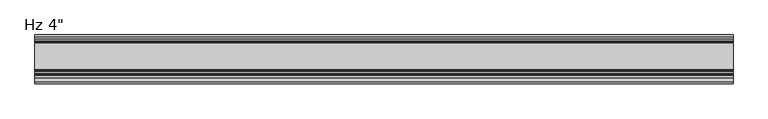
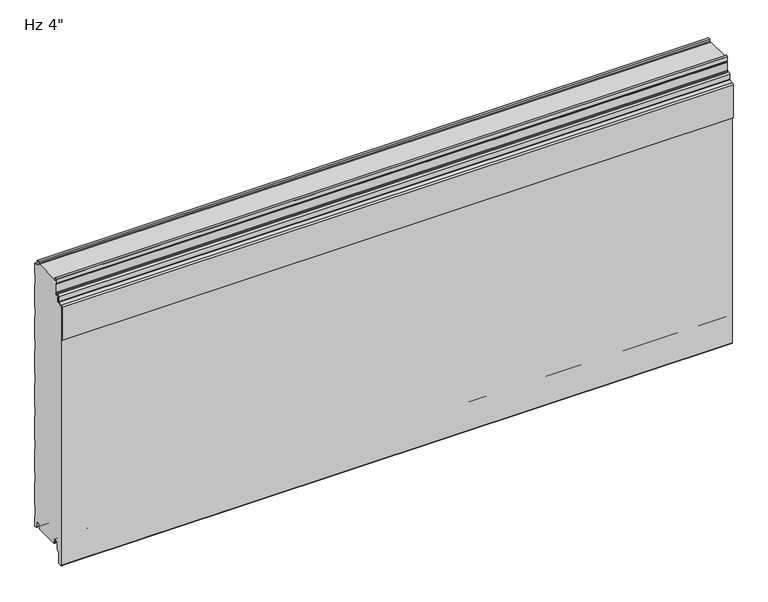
"""IFC4 building model written with IfcOpenShell, lengths in millimetres: plate geometry."""

from ifc_helpers import new_model, si_unit, frame, origin, place, context, project, spatial, polyline, circle_curve, source, transform, mapped, element, save
from ifc_brep_helpers import plane_surface, cylinder_surface, revolved_surface, advanced_brep


def plate_89cbda9c(model_context):
    return source(origin(), model_context, "Body", "AdvancedBrep", [
        advanced_brep(
        [(730.0, -80.5008679, 583.4464086), (730.0, -80.5008679, 602.1916086), (730.0, -82.0248679, 602.1916086), (730.0, -82.0248679, 583.4464086), (730.0, -83.5488679, 581.9224086), (730.0, -86.6476679, 581.9224086), (730.0, -90.1020679, 578.4680086), (730.0, -90.1020679, 567.2554512), (730.0, -90.7976552, 566.4963509), (730.0, -100.3416507, 565.3015233), (730.0, -103.124, 562.2651218), (730.0, -103.1360323, 486.6978086), (730.0, -101.6, 486.6978086), (730.0, -101.6, 562.2651218), (730.0, -100.2088254, 563.7833225), (730.0, -90.6648299, 564.9781501), (730.0, -88.5780679, 567.2554512), (730.0, -88.5780679, 578.4680086), (730.0, -86.6476679, 580.3984086), (730.0, -83.5488679, 580.3984086), (-730.0, -80.5008679, 583.4464086), (-730.0, -83.5488679, 580.3984086), (-730.0, -86.6476679, 580.3984086), (-730.0, -88.5780679, 578.4680086), (-730.0, -88.5780679, 567.2554512), (-730.0, -90.6648299, 564.9781501), (-730.0, -100.2088254, 563.7833225), (-730.0, -101.6, 562.2651218), (-730.0, -101.6, 486.6978086), (-730.0, -103.1360323, 486.6978086), (-730.0, -103.1360323, 562.2651218), (-730.0, -100.3416507, 565.3015233), (-730.0, -90.7976552, 566.4963509), (-730.0, -90.1020679, 567.2554512), (-730.0, -90.1020679, 578.4680086), (-730.0, -86.6476679, 581.9224086), (-730.0, -83.5488679, 581.9224086), (-730.0, -82.0248679, 583.4464086), (-730.0, -82.0248679, 602.1916086), (-730.0, -80.5008679, 602.1916086)],
        [
            (0, 1),
            (1, 2),
            (2, 3),
            (3, 4, circle_curve(frame((730.0, -83.5488679, 583.4464086), z_axis=(-1.0, 0.0, 0.0), x_axis=(0.0, 1.0, 0.0)), 1.524)),
            (4, 5),
            (5, 6, circle_curve(frame((730.0, -86.6476679, 578.4680086), z_axis=(1.0, 0.0, 0.0), x_axis=(0.0, 1.0, 0.0)), 3.4544)),
            (6, 7),
            (7, 8, circle_curve(frame((730.0, -90.8640679, 567.2554512), z_axis=(-1.0, 0.0, 0.0), x_axis=(0.0, 1.0, 0.0)), 0.762)),
            (8, 9),
            (9, 10, circle_curve(frame((730.0, -100.076, 562.2651218), z_axis=(1.0, 0.0, 0.0), x_axis=(0.0, 1.0, 0.0)), 3.048)),
            (10, 11),
            (11, 12),
            (12, 13),
            (13, 14, circle_curve(frame((730.0, -100.076, 562.2651218), z_axis=(-1.0, 0.0, 0.0), x_axis=(0.0, 1.0, 0.0)), 1.524)),
            (14, 15),
            (15, 16, circle_curve(frame((730.0, -90.8640679, 567.2554512), z_axis=(1.0, 0.0, 0.0), x_axis=(0.0, 1.0, 0.0)), 2.286)),
            (16, 17),
            (17, 18, circle_curve(frame((730.0, -86.6476679, 578.4680086), z_axis=(-1.0, 0.0, 0.0), x_axis=(0.0, 1.0, 0.0)), 1.9304)),
            (18, 19),
            (19, 0, circle_curve(frame((730.0, -83.5488679, 583.4464086), z_axis=(1.0, 0.0, 0.0), x_axis=(0.0, 1.0, 0.0)), 3.048)),
            (20, 21, circle_curve(frame((-730.0, -83.5488679, 583.4464086), z_axis=(-1.0, 0.0, 0.0), x_axis=(0.0, 1.0, 0.0)), 3.048)),
            (21, 22),
            (22, 23, circle_curve(frame((-730.0, -86.6476679, 578.4680086), z_axis=(1.0, 0.0, 0.0), x_axis=(0.0, 1.0, 0.0)), 1.9304)),
            (23, 24),
            (24, 25, circle_curve(frame((-730.0, -90.8640679, 567.2554512), z_axis=(-1.0, 0.0, 0.0), x_axis=(0.0, 1.0, 0.0)), 2.286)),
            (25, 26),
            (26, 27, circle_curve(frame((-730.0, -100.076, 562.2651218), z_axis=(1.0, 0.0, 0.0), x_axis=(0.0, 1.0, 0.0)), 1.524)),
            (27, 28),
            (28, 29),
            (29, 30),
            (30, 31, circle_curve(frame((-730.0, -100.076, 562.2651218), z_axis=(-1.0, 0.0, 0.0), x_axis=(0.0, 1.0, 0.0)), 3.048)),
            (31, 32),
            (32, 33, circle_curve(frame((-730.0, -90.8640679, 567.2554512), z_axis=(1.0, 0.0, 0.0), x_axis=(0.0, 1.0, 0.0)), 0.762)),
            (33, 34),
            (34, 35, circle_curve(frame((-730.0, -86.6476679, 578.4680086), z_axis=(-1.0, 0.0, 0.0), x_axis=(0.0, 1.0, 0.0)), 3.4544)),
            (35, 36),
            (36, 37, circle_curve(frame((-730.0, -83.5488679, 583.4464086), z_axis=(1.0, 0.0, 0.0), x_axis=(0.0, 1.0, 0.0)), 1.524)),
            (37, 38),
            (38, 39),
            (39, 20),
            (2, 38),
            (37, 3),
            (15, 25),
            (24, 16),
            (7, 33),
            (32, 8),
            (5, 35),
            (34, 6),
            (1, 39),
            (36, 4),
            (9, 31),
            (30, 10),
            (13, 27),
            (26, 14),
            (0, 20),
            (12, 28),
            (29, 11),
            (23, 17),
            (18, 22),
            (21, 19),
        ],
        [
            plane_surface(frame((730.0, -101.6, 602.1916086), z_axis=(1.0, 0.0, 0.0), x_axis=(0.0, 0.0, -1.0))),
            plane_surface(frame((-730.0, -101.6, 602.1916086), z_axis=(-1.0, 0.0, 0.0), x_axis=(0.0, 0.0, -1.0))),
            plane_surface(frame((730.0, -82.0248679, 583.4464086), z_axis=(0.0, -1.0, 0.0), x_axis=(-1.0, 0.0, 0.0))),
            cylinder_surface(frame((730.0, -90.8640679, 567.2554512), z_axis=(1.0, 0.0, 0.0), x_axis=(0.0, 1.0, 0.0)), 2.286),
            revolved_surface(polyline([(-730.0, -90.1020679, 567.2554512), (730.0, -90.1020679, 567.2554512)]), (730.0, -90.8640679, 567.2554512), (-1.0, 0.0, 0.0)),
            cylinder_surface(frame((730.0, -86.6476679, 578.4680086), z_axis=(1.0, 0.0, 0.0), x_axis=(0.0, 1.0, 0.0)), 3.4544),
            plane_surface(frame((730.0, -82.0248679, 602.1916086), z_axis=(0.0, 0.0, 1.0), x_axis=(-1.0, 0.0, 0.0))),
            revolved_surface(polyline([(-730.0, -82.0248679, 583.4464086), (730.0, -82.0248679, 583.4464086)]), (730.0, -83.5488679, 583.4464086), (-1.0, 0.0, 0.0)),
            cylinder_surface(frame((730.0, -100.076, 562.2651218), z_axis=(1.0, 0.0, 0.0), x_axis=(0.0, 1.0, 0.0)), 3.048),
            revolved_surface(polyline([(-730.0, -98.55199999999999, 562.2651218), (730.0, -98.55199999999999, 562.2651218)]), (730.0, -100.076, 562.2651218), (-1.0, 0.0, 0.0)),
            plane_surface(frame((730.0, -80.5008679, 602.1916086), z_axis=(0.0, 1.0, 0.0), x_axis=(-1.0, 0.0, 0.0))),
            plane_surface(frame((730.0, -90.6648299, 564.9781501), z_axis=(0.0, 0.12422187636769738, -0.9922544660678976), x_axis=(-1.0, 0.0, 0.0))),
            plane_surface(frame((730.0, -101.6, 562.2651218), z_axis=(0.0, 1.0, 0.0), x_axis=(-1.0, 0.0, 0.0))),
            plane_surface(frame((730.0, -100.3416507, 565.3015233), z_axis=(0.0, -0.12422187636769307, 0.9922544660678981), x_axis=(-1.0, 0.0, 0.0))),
            plane_surface(frame((730.0, -86.6476679, 581.9224086), z_axis=(0.0, 0.0, 1.0), x_axis=(-1.0, 0.0, 0.0))),
            plane_surface(frame((730.0, -103.1360323, 486.6978086), z_axis=(0.0, -1.0, 0.0), x_axis=(-1.0, 0.0, 0.0))),
            plane_surface(frame((730.0, -101.6, 486.6978086), z_axis=(0.0, 0.0, -1.0), x_axis=(-1.0, 0.0, 0.0))),
            plane_surface(frame((730.0, -88.5780679, 578.4680086), z_axis=(0.0, 1.0, 0.0), x_axis=(-1.0, 0.0, 0.0))),
            plane_surface(frame((730.0, -83.5488679, 580.3984086), z_axis=(0.0, 0.0, -1.0), x_axis=(-1.0, 0.0, 0.0))),
            plane_surface(frame((730.0, -90.1020679, 567.2554512), z_axis=(0.0, -1.0, 0.0), x_axis=(-1.0, 0.0, 0.0))),
            revolved_surface(polyline([(-730.0, -84.7172679, 578.4680086), (730.0, -84.7172679, 578.4680086)]), (730.0, -86.6476679, 578.4680086), (-1.0, 0.0, 0.0)),
            cylinder_surface(frame((730.0, -83.5488679, 583.4464086), z_axis=(1.0, 0.0, 0.0), x_axis=(0.0, 1.0, 0.0)), 3.048),
        ],
        [
            (0, [[1, 2, 3, 4, 5, 6, 7, 8, 9, 10, 11, 12, 13, 14, 15, 16, 17, 18, 19, 20]]),
            (1, [[21, 22, 23, 24, 25, 26, 27, 28, 29, 30, 31, 32, 33, 34, 35, 36, 37, 38, 39, 40]]),
            (2, [[41, -38, 42, -3]]),
            (3, [[43, -25, 44, -16]]),
            (4, [[45, -33, 46, -8]]),
            (5, [[47, -35, 48, -6]]),
            (6, [[49, -39, -41, -2]]),
            (7, [[-42, -37, 50, -4]]),
            (8, [[51, -31, 52, -10]]),
            (9, [[53, -27, 54, -14]]),
            (10, [[55, -40, -49, -1]]),
            (11, [[-54, -26, -43, -15]]),
            (12, [[56, -28, -53, -13]]),
            (13, [[-46, -32, -51, -9]]),
            (14, [[-50, -36, -47, -5]]),
            (15, [[-52, -30, 57, -11]]),
            (16, [[-57, -29, -56, -12]]),
            (17, [[-44, -24, 58, -17]]),
            (18, [[59, -22, 60, -19]]),
            (19, [[-48, -34, -45, -7]]),
            (20, [[-58, -23, -59, -18]]),
            (21, [[-60, -21, -55, -20]]),
        ],
    ),
        advanced_brep(
        [(-730.0, -73.270875, 1.0316999), (-730.0, -72.1014003, 2.2328239), (-730.0, -72.1014003, 5.9912173), (-730.0, -73.4998791, 5.9912173), (-730.0, -73.4998791, 8.6903283), (-730.0, -76.8498744, 12.0403236), (-730.0, -81.2498656, 12.0403236), (-730.0, -84.5998609, 8.6903283), (-730.0, -84.5998609, -3.1205608), (-730.0, -85.0977778, -4.3226385), (-730.0, -90.5998489, -9.8247096), (-730.0, -90.5998489, -31.9198392), (-730.0, -92.8184509, -34.5765709), (-730.0, -97.8002718, -35.0125699), (-730.0, -100.5945967, -32.4521176), (-730.0, -100.6, 561.115622), (-730.0, -98.8149259, 563.0669057), (-730.0, -90.3539491, 563.821161), (-730.0, -87.5906462, 566.9653654), (-730.0, -87.5906462, 577.0583308), (-730.0, -86.6392375, 578.0097394), (-730.0, -83.4955822, 578.0097394), (-730.0, -79.4961292, 582.0091924), (-730.0, -79.4961292, 603.1895515), (-730.0, -81.476977, 604.3334028), (-730.0, -81.1217167, 613.306811), (-730.0, -76.9211391, 613.3037148), (-730.0, -76.6767242, 609.2977997), (-730.0, -74.8819116, 607.5686884), (-730.0, -72.097365, 607.5686884), (-730.0, -72.097365, 608.5686884), (-730.0, -73.684865, 608.5686884), (-730.0, -72.6535534, 609.6), (-730.0, -18.6184525, 609.6), (-730.0, -17.5871409, 608.5686884), (-730.0, -19.0015288, 608.5686884), (-730.0, -19.0015288, 607.5686884), (-730.0, -16.6743462, 607.5686884), (-730.0, -14.9256429, 609.2513685), (-730.0, -14.7059822, 613.3921924), (-730.0, -10.4046442, 613.3931719), (-730.0, -9.9974365, 604.9016499), (-730.0, -6.0026007, 601.0787013), (-730.0, -1.0, 601.0787013), (-730.0, -1.0, 576.5794011), (-730.0, -2.2002307, 575.1937682), (-730.0, -2.2002307, 555.8186019), (-730.0, -1.0, 554.4329689), (-730.0, -1.0, 500.3795535), (-730.0, -2.2002307, 498.9939206), (-730.0, -2.2002307, 479.6187543), (-730.0, -1.0, 478.2331213), (-730.0, -1.0, 424.1797059), (-730.0, -2.2002307, 422.794073), (-730.0, -2.2002307, 403.4189067), (-730.0, -1.0, 402.0332737), (-730.0, -1.0, 347.9798583), (-730.0, -2.2002307, 346.5942254), (-730.0, -2.2002307, 327.2190591), (-730.0, -1.0, 325.8334261), (-730.0, -1.0, 271.7800107), (-730.0, -2.2002307, 270.3943778), (-730.0, -2.2002307, 251.0192115), (-730.0, -1.0, 249.6335785), (-730.0, -1.0, 195.5801631), (-730.0, -2.2002307, 194.1945302), (-730.0, -2.2002307, 174.8193639), (-730.0, -1.0, 173.4337309), (-730.0, -1.0, 119.3803155), (-730.0, -2.2002307, 117.9946826), (-730.0, -2.2002307, 98.6195163), (-730.0, -1.0, 97.2338833), (-730.0, -1.0, 43.1804679), (-730.0, -2.2002307, 41.794835), (-730.0, -2.2002307, 22.4196687), (-730.0, -0.9999916, 21.034026), (-730.0, -0.9999916, -3.4662506), (-730.0, -5.2315389, -3.4662506), (-730.0, -7.0015331, -1.6962564), (-730.0, -7.0015331, 8.7237222), (-730.0, -10.301529, 12.023718), (-730.0, -14.7015202, 12.023718), (-730.0, -18.0015159, 8.7237223), (-730.0, -18.0015159, 6.0315125), (-730.0, -19.0015105, 6.0315125), (-730.0, -19.0015105, 2.0313089), (-730.0, -18.0015192, 1.0313117), (-730.0, -19.0328308, 0.0), (-730.0, -72.2391751, 0.0), (730.0, -73.270875, 1.0316999), (730.0, -72.2391751, 0.0), (730.0, -19.0328308, 0.0), (730.0, -18.0015192, 1.0313117), (730.0, -19.0015105, 2.0313089), (730.0, -19.0015105, 6.0315125), (730.0, -18.0015159, 6.0315125), (730.0, -18.0015159, 8.7237223), (730.0, -14.7015202, 12.023718), (730.0, -10.301529, 12.023718), (730.0, -7.0015331, 8.7237222), (730.0, -7.0015331, -1.6962564), (730.0, -5.2315389, -3.4662506), (730.0, -0.9999916, -3.4662506), (730.0, -0.9999916, 21.034026), (730.0, -2.2002307, 22.4196687), (730.0, -2.2002307, 41.794835), (730.0, -1.0, 43.1804679), (730.0, -1.0, 97.2338833), (730.0, -2.2002307, 98.6195163), (730.0, -2.2002307, 117.9946826), (730.0, -1.0, 119.3803155), (730.0, -1.0, 173.4337309), (730.0, -2.2002307, 174.8193639), (730.0, -2.2002307, 194.1945302), (730.0, -1.0, 195.5801631), (730.0, -1.0, 249.6335785), (730.0, -2.2002307, 251.0192115), (730.0, -2.2002307, 270.3943778), (730.0, -1.0, 271.7800107), (730.0, -1.0, 325.8334261), (730.0, -2.2002307, 327.2190591), (730.0, -2.2002307, 346.5942254), (730.0, -1.0, 347.9798583), (730.0, -1.0, 402.0332737), (730.0, -2.2002307, 403.4189067), (730.0, -2.2002307, 422.794073), (730.0, -1.0, 424.1797059), (730.0, -1.0, 478.2331213), (730.0, -2.2002307, 479.6187543), (730.0, -2.2002307, 498.9939206), (730.0, -1.0, 500.3795535), (730.0, -1.0, 554.4329689), (730.0, -2.2002307, 555.8186019), (730.0, -2.2002307, 575.1937682), (730.0, -1.0, 576.5794011), (730.0, -1.0, 601.0787013), (730.0, -6.0026007, 601.0787013), (730.0, -9.9974365, 604.9016499), (730.0, -10.4046442, 613.3931719), (730.0, -14.7059822, 613.3921924), (730.0, -14.9256429, 609.2513685), (730.0, -16.6743462, 607.5686884), (730.0, -19.0015288, 607.5686884), (730.0, -19.0015288, 608.5686884), (730.0, -17.5871409, 608.5686884), (730.0, -18.6184525, 609.6), (730.0, -72.6535534, 609.6), (730.0, -73.684865, 608.5686884), (730.0, -72.097365, 608.5686884), (730.0, -72.097365, 607.5686884), (730.0, -74.8819116, 607.5686884), (730.0, -76.6767242, 609.2977997), (730.0, -76.9211391, 613.3037148), (730.0, -81.1217167, 613.306811), (730.0, -81.476977, 604.3334028), (730.0, -79.4961292, 603.1895515), (730.0, -79.4961292, 582.0091924), (730.0, -83.4955822, 578.0097394), (730.0, -86.6392375, 578.0097394), (730.0, -87.5906462, 577.0583308), (730.0, -87.5906462, 566.9653654), (730.0, -90.3539491, 563.821161), (730.0, -98.8149259, 563.0669057), (730.0, -100.6, 561.115622), (730.0, -100.6, -32.4521176), (730.0, -97.8002718, -35.0125699), (730.0, -92.8184509, -34.5765709), (730.0, -90.5998489, -31.9198392), (730.0, -90.5998489, -9.8247096), (730.0, -85.0977778, -4.3226385), (730.0, -84.5998609, -3.1205608), (730.0, -84.5998609, 8.6903283), (730.0, -81.2498656, 12.0403236), (730.0, -76.8498744, 12.0403236), (730.0, -73.4998791, 8.6903283), (730.0, -73.4998791, 5.9912173), (730.0, -72.1014003, 5.9912173), (730.0, -72.1014003, 2.2328239)],
        [
            (0, 1, circle_curve(frame((-730.0, -73.3013969, 2.2313092), z_axis=(1.0, 0.0, 0.0), x_axis=(0.0, 0.0, -1.0)), 1.1999976)),
            (1, 2),
            (2, 3),
            (3, 4),
            (4, 5, circle_curve(frame((-730.0, -76.8498744, 8.6903283), z_axis=(1.0, 0.0, 0.0), x_axis=(0.0, 0.0, -1.0)), 3.3499953)),
            (5, 6),
            (6, 7, circle_curve(frame((-730.0, -81.2498656, 8.6903283), z_axis=(1.0, 0.0, 0.0), x_axis=(0.0, 0.0, -1.0)), 3.3499953)),
            (7, 8),
            (8, 9, circle_curve(frame((-730.0, -86.2998555, -3.1205608), z_axis=(-1.0, 0.0, 0.0), x_axis=(0.0, 0.0, -1.0)), 1.6999946)),
            (9, 10),
            (10, 11),
            (11, 12, circle_curve(frame((-730.0, -93.2998415, -31.9198392), z_axis=(-1.0, 0.0, 0.0), x_axis=(0.0, 0.0, -1.0)), 2.6999926)),
            (12, 13),
            (13, 14, circle_curve(frame((-730.0, -98.0243575, -32.4521176), z_axis=(-1.0, 0.0, 0.0), x_axis=(0.0, 0.0, -1.0)), 2.5702393)),
            (14, 15),
            (15, 16, circle_curve(frame((-730.0, -98.6409784, 561.115622), z_axis=(-1.0, 0.0, 0.0), x_axis=(0.0, 0.0, -1.0)), 1.9590216)),
            (16, 17),
            (17, 18, circle_curve(frame((-730.0, -90.6180321, 566.8396267), z_axis=(1.0, 0.0, 0.0), x_axis=(0.0, 0.0, -1.0)), 3.0299959)),
            (18, 19),
            (19, 20, circle_curve(frame((-730.0, -86.6392375, 577.0583308), z_axis=(-1.0, 0.0, 0.0), x_axis=(0.0, 0.0, -1.0)), 0.9514087)),
            (20, 21),
            (21, 22, circle_curve(frame((-730.0, -83.4955822, 582.0091924), z_axis=(1.0, 0.0, 0.0), x_axis=(0.0, 0.0, -1.0)), 3.9994529)),
            (22, 23),
            (23, 24),
            (24, 25),
            (25, 26, circle_curve(frame((-730.0, -79.021488, 613.2236622), z_axis=(-1.0, 0.0, 0.0), x_axis=(0.0, 0.0, -1.0)), 2.1018739)),
            (26, 27),
            (27, 28, circle_curve(frame((-730.0, -74.8383506, 609.4099653), z_axis=(1.0, 0.0, 0.0), x_axis=(0.0, 0.0, -1.0)), 1.8417922)),
            (28, 29),
            (29, 30),
            (30, 31),
            (31, 32),
            (32, 33),
            (33, 34),
            (34, 35),
            (35, 36),
            (36, 37),
            (37, 38, circle_curve(frame((-730.0, -16.6743462, 609.3186869), z_axis=(1.0, 0.0, 0.0), x_axis=(0.0, 0.0, 1.0)), 1.7499985)),
            (38, 39),
            (39, 40, circle_curve(frame((-730.0, -12.5552871, 613.2781032), z_axis=(-1.0, 0.0, 0.0), x_axis=(0.0, 0.0, 1.0)), 2.153719)),
            (40, 41),
            (41, 42, circle_curve(frame((-730.0, -5.9867338, 605.0939817), z_axis=(1.0, 0.0, 0.0), x_axis=(0.0, 0.0, 1.0)), 4.0153117)),
            (42, 43),
            (43, 44),
            (44, 45),
            (45, 46),
            (46, 47),
            (47, 48),
            (48, 49),
            (49, 50),
            (50, 51),
            (51, 52),
            (52, 53),
            (53, 54),
            (54, 55),
            (55, 56),
            (56, 57),
            (57, 58),
            (58, 59),
            (59, 60),
            (60, 61),
            (61, 62),
            (62, 63),
            (63, 64),
            (64, 65),
            (65, 66),
            (66, 67),
            (67, 68),
            (68, 69),
            (69, 70),
            (70, 71),
            (71, 72),
            (72, 73),
            (73, 74),
            (74, 75),
            (75, 76),
            (76, 77),
            (77, 78, circle_curve(frame((-730.0, -5.2315389, -1.6962564), z_axis=(-1.0, 0.0, 0.0), x_axis=(0.0, 0.0, 1.0)), 1.7699942)),
            (78, 79),
            (79, 80, circle_curve(frame((-730.0, -10.301529, 8.7237222), z_axis=(1.0, 0.0, 0.0), x_axis=(0.0, 0.0, 1.0)), 3.2999959)),
            (80, 81),
            (81, 82, circle_curve(frame((-730.0, -14.7015202, 8.7237223), z_axis=(1.0, 0.0, 0.0), x_axis=(0.0, 0.0, 1.0)), 3.2999957)),
            (82, 83),
            (83, 84),
            (84, 85),
            (85, 86, circle_curve(frame((-730.0, -18.0015133, 2.0313089), z_axis=(1.0, 0.0, 0.0), x_axis=(0.0, 0.0, 1.0)), 0.9999972)),
            (86, 87),
            (87, 88),
            (88, 0),
            (89, 90),
            (90, 91),
            (91, 92),
            (92, 93, circle_curve(frame((730.0, -18.0015133, 2.0313089), z_axis=(-1.0, 0.0, 0.0), x_axis=(0.0, 0.0, 1.0)), 0.9999972)),
            (93, 94),
            (94, 95),
            (95, 96),
            (96, 97, circle_curve(frame((730.0, -14.7015202, 8.7237223), z_axis=(-1.0, 0.0, 0.0), x_axis=(0.0, 0.0, 1.0)), 3.2999957)),
            (97, 98),
            (98, 99, circle_curve(frame((730.0, -10.301529, 8.7237222), z_axis=(-1.0, 0.0, 0.0), x_axis=(0.0, 0.0, 1.0)), 3.2999959)),
            (99, 100),
            (100, 101, circle_curve(frame((730.0, -5.2315389, -1.6962564), z_axis=(1.0, 0.0, 0.0), x_axis=(0.0, 0.0, 1.0)), 1.7699942)),
            (101, 102),
            (102, 103),
            (103, 104),
            (104, 105),
            (105, 106),
            (106, 107),
            (107, 108),
            (108, 109),
            (109, 110),
            (110, 111),
            (111, 112),
            (112, 113),
            (113, 114),
            (114, 115),
            (115, 116),
            (116, 117),
            (117, 118),
            (118, 119),
            (119, 120),
            (120, 121),
            (121, 122),
            (122, 123),
            (123, 124),
            (124, 125),
            (125, 126),
            (126, 127),
            (127, 128),
            (128, 129),
            (129, 130),
            (130, 131),
            (131, 132),
            (132, 133),
            (133, 134),
            (134, 135),
            (135, 136),
            (136, 137, circle_curve(frame((730.0, -5.9867338, 605.0939817), z_axis=(-1.0, 0.0, 0.0), x_axis=(0.0, 0.0, 1.0)), 4.0153117)),
            (137, 138),
            (138, 139, circle_curve(frame((730.0, -12.5552871, 613.2781032), z_axis=(1.0, 0.0, 0.0), x_axis=(0.0, 0.0, 1.0)), 2.153719)),
            (139, 140),
            (140, 141, circle_curve(frame((730.0, -16.6743462, 609.3186869), z_axis=(-1.0, 0.0, 0.0), x_axis=(0.0, 0.0, 1.0)), 1.7499985)),
            (141, 142),
            (142, 143),
            (143, 144),
            (144, 145),
            (145, 146),
            (146, 147),
            (147, 148),
            (148, 149),
            (149, 150),
            (150, 151, circle_curve(frame((730.0, -74.8383506, 609.4099653), z_axis=(-1.0, 0.0, 0.0), x_axis=(0.0, 0.0, -1.0)), 1.8417922)),
            (151, 152),
            (152, 153, circle_curve(frame((730.0, -79.021488, 613.2236622), z_axis=(1.0, 0.0, 0.0), x_axis=(0.0, 0.0, -1.0)), 2.1018739)),
            (153, 154),
            (154, 155),
            (155, 156),
            (156, 157, circle_curve(frame((730.0, -83.4955822, 582.0091924), z_axis=(-1.0, 0.0, 0.0), x_axis=(0.0, 0.0, -1.0)), 3.9994529)),
            (157, 158),
            (158, 159, circle_curve(frame((730.0, -86.6392375, 577.0583308), z_axis=(1.0, 0.0, 0.0), x_axis=(0.0, 0.0, -1.0)), 0.9514087)),
            (159, 160),
            (160, 161, circle_curve(frame((730.0, -90.6180321, 566.8396267), z_axis=(-1.0, 0.0, 0.0), x_axis=(0.0, 0.0, -1.0)), 3.0299959)),
            (161, 162),
            (162, 163, circle_curve(frame((730.0, -98.6409784, 561.115622), z_axis=(1.0, 0.0, 0.0), x_axis=(0.0, 0.0, -1.0)), 1.9590216)),
            (163, 164),
            (164, 165, circle_curve(frame((730.0, -98.0243575, -32.4521176), z_axis=(1.0, 0.0, 0.0), x_axis=(0.0, 0.0, -1.0)), 2.5702393)),
            (165, 166),
            (166, 167, circle_curve(frame((730.0, -93.2998415, -31.9198392), z_axis=(1.0, 0.0, 0.0), x_axis=(0.0, 0.0, -1.0)), 2.6999926)),
            (167, 168),
            (168, 169),
            (169, 170, circle_curve(frame((730.0, -86.2998555, -3.1205608), z_axis=(1.0, 0.0, 0.0), x_axis=(0.0, 0.0, -1.0)), 1.6999946)),
            (170, 171),
            (171, 172, circle_curve(frame((730.0, -81.2498656, 8.6903283), z_axis=(-1.0, 0.0, 0.0), x_axis=(0.0, 0.0, -1.0)), 3.3499953)),
            (172, 173),
            (173, 174, circle_curve(frame((730.0, -76.8498744, 8.6903283), z_axis=(-1.0, 0.0, 0.0), x_axis=(0.0, 0.0, -1.0)), 3.3499953)),
            (174, 175),
            (175, 176),
            (176, 177),
            (177, 89, circle_curve(frame((730.0, -73.3013969, 2.2313092), z_axis=(-1.0, 0.0, 0.0), x_axis=(0.0, 0.0, -1.0)), 1.1999976)),
            (88, 90),
            (89, 0),
            (87, 91),
            (32, 146),
            (145, 33),
            (31, 147),
            (30, 148),
            (29, 149),
            (28, 150),
            (27, 151),
            (26, 152),
            (25, 153),
            (24, 154),
            (23, 155),
            (22, 156),
            (21, 157),
            (20, 158),
            (19, 159),
            (18, 160),
            (17, 161),
            (16, 162),
            (15, 163),
            (14, 164),
            (13, 165),
            (12, 166),
            (11, 167),
            (10, 168),
            (9, 169),
            (8, 170),
            (7, 171),
            (6, 172),
            (5, 173),
            (4, 174),
            (3, 175),
            (2, 176),
            (1, 177),
            (86, 92),
            (85, 93),
            (84, 94),
            (83, 95),
            (82, 96),
            (81, 97),
            (80, 98),
            (79, 99),
            (78, 100),
            (77, 101),
            (76, 102),
            (41, 137),
            (136, 42),
            (40, 138),
            (39, 139),
            (38, 140),
            (37, 141),
            (36, 142),
            (35, 143),
            (34, 144),
            (74, 104),
            (103, 75),
            (73, 105),
            (72, 106),
            (71, 107),
            (70, 108),
            (69, 109),
            (68, 110),
            (67, 111),
            (66, 112),
            (65, 113),
            (64, 114),
            (63, 115),
            (62, 116),
            (61, 117),
            (60, 118),
            (59, 119),
            (58, 120),
            (57, 121),
            (56, 122),
            (55, 123),
            (54, 124),
            (53, 125),
            (52, 126),
            (51, 127),
            (50, 128),
            (49, 129),
            (48, 130),
            (47, 131),
            (46, 132),
            (45, 133),
            (44, 134),
            (43, 135),
        ],
        [
            plane_surface(frame((-730.0, -100.6, 304.8), z_axis=(-1.0, 0.0, 0.0), x_axis=(0.0, -1.0, 0.0))),
            plane_surface(frame((730.0, -100.6, 304.8), z_axis=(1.0, 0.0, 0.0), x_axis=(0.0, -1.0, 0.0))),
            plane_surface(frame((-730.0, -73.270875, 1.0316999), z_axis=(0.0, -0.7071067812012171, -0.707106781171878), x_axis=(1.0, 0.0, 0.0))),
            plane_surface(frame((-730.0, -72.2391751, 0.0), z_axis=(0.0, 0.0, -1.0), x_axis=(1.0, 0.0, 0.0))),
            plane_surface(frame((-730.0, -71.2391751, 609.6), z_axis=(0.0, 0.0, 1.0), x_axis=(1.0, 0.0, 0.0))),
            plane_surface(frame((-730.0, -72.6535534, 609.6), z_axis=(0.0, -0.7071067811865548, 0.7071067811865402), x_axis=(1.0, 0.0, 0.0))),
            plane_surface(frame((-730.0, -73.684865, 608.5686884), z_axis=(0.0, 0.0, -1.0), x_axis=(1.0, 0.0, 0.0))),
            plane_surface(frame((-730.0, -72.097365, 608.5686884), z_axis=(0.0, -1.0, 0.0), x_axis=(1.0, 0.0, 0.0))),
            plane_surface(frame((-730.0, -72.097365, 607.5686884), z_axis=(0.0, 0.0, 1.0), x_axis=(1.0, 0.0, 0.0))),
            revolved_surface(polyline([(730.0, -74.8383506, 607.5681731), (-730.0, -74.8383506, 607.5681731)]), (-730.0, -74.8383506, 609.4099653), (1.0, 0.0, 0.0)),
            plane_surface(frame((-730.0, -76.6767242, 609.2977997), z_axis=(0.0, 0.9981438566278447, 0.06090025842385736), x_axis=(1.0, 0.0, 0.0))),
            cylinder_surface(frame((-730.0, -79.021488, 613.2236622), z_axis=(-1.0, 0.0, 0.0), x_axis=(0.0, 0.0, -1.0)), 2.1018739),
            plane_surface(frame((-730.0, -81.1217167, 613.306811), z_axis=(0.0, -0.9992172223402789, 0.03955935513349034), x_axis=(1.0, 0.0, 0.0))),
            plane_surface(frame((-730.0, -81.476977, 604.3334028), z_axis=(0.0, -0.5000682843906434, -0.865985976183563), x_axis=(1.0, 0.0, 0.0))),
            plane_surface(frame((-730.0, -79.4961292, 603.1895515), z_axis=(0.0, -1.0, 0.0), x_axis=(1.0, 0.0, 0.0))),
            revolved_surface(polyline([(730.0, -83.4955822, 578.0097394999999), (-730.0, -83.4955822, 578.0097394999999)]), (-730.0, -83.4955822, 582.0091924), (1.0, 0.0, 0.0)),
            plane_surface(frame((-730.0, -83.4955822, 578.0097394), z_axis=(0.0, 0.0, 1.0), x_axis=(1.0, 0.0, 0.0))),
            cylinder_surface(frame((-730.0, -86.6392375, 577.0583308), z_axis=(-1.0, 0.0, 0.0), x_axis=(0.0, 0.0, -1.0)), 0.9514087),
            plane_surface(frame((-730.0, -87.5906462, 577.0583308), z_axis=(0.0, -1.0, 0.0), x_axis=(1.0, 0.0, 0.0))),
            revolved_surface(polyline([(730.0, -90.6180321, 563.8096308), (-730.0, -90.6180321, 563.8096308)]), (-730.0, -90.6180321, 566.8396267), (1.0, 0.0, 0.0)),
            plane_surface(frame((-730.0, -90.3539491, 563.821161), z_axis=(0.0, -0.08879306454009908, 0.9960500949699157), x_axis=(1.0, 0.0, 0.0))),
            cylinder_surface(frame((-730.0, -98.6409784, 561.115622), z_axis=(-1.0, 0.0, 0.0), x_axis=(0.0, 0.0, -1.0)), 1.9590216),
            plane_surface(frame((-730.0, -100.6, 561.115622), z_axis=(0.0, -1.0, 0.0), x_axis=(1.0, 0.0, 0.0))),
            cylinder_surface(frame((-730.0, -98.0243575, -32.4521176), z_axis=(-1.0, 0.0, 0.0), x_axis=(0.0, 0.0, -1.0)), 2.5702393),
            plane_surface(frame((-730.0, -97.8002718, -35.0125699), z_axis=(0.0, 0.08718474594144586, -0.9961921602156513), x_axis=(1.0, 0.0, 0.0))),
            cylinder_surface(frame((-730.0, -93.2998415, -31.9198392), z_axis=(-1.0, 0.0, 0.0), x_axis=(0.0, 0.0, -1.0)), 2.6999926),
            plane_surface(frame((-730.0, -90.5998489, -31.9198392), z_axis=(0.0, 1.0, 0.0), x_axis=(1.0, 0.0, 0.0))),
            plane_surface(frame((-730.0, -90.5998489, -9.8247096), z_axis=(0.0, 0.7071067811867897, -0.7071067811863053), x_axis=(1.0, 0.0, 0.0))),
            cylinder_surface(frame((-730.0, -86.2998555, -3.1205608), z_axis=(-1.0, 0.0, 0.0), x_axis=(0.0, 0.0, -1.0)), 1.6999946),
            plane_surface(frame((-730.0, -84.5998609, -3.1205608), z_axis=(0.0, 1.0, 0.0), x_axis=(1.0, 0.0, 0.0))),
            revolved_surface(polyline([(730.0, -81.2498656, 5.340332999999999), (-730.0, -81.2498656, 5.340332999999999)]), (-730.0, -81.2498656, 8.6903283), (1.0, 0.0, 0.0)),
            plane_surface(frame((-730.0, -81.2498656, 12.0403236), z_axis=(0.0, 0.0, -1.0), x_axis=(1.0, 0.0, 0.0))),
            revolved_surface(polyline([(730.0, -76.8498744, 5.340332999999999), (-730.0, -76.8498744, 5.340332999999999)]), (-730.0, -76.8498744, 8.6903283), (1.0, 0.0, 0.0)),
            plane_surface(frame((-730.0, -73.4998791, 8.6903283), z_axis=(0.0, -1.0, 0.0), x_axis=(1.0, 0.0, 0.0))),
            plane_surface(frame((-730.0, -73.4998791, 5.9912173), z_axis=(0.0, 0.0, -1.0), x_axis=(1.0, 0.0, 0.0))),
            plane_surface(frame((-730.0, -72.1014003, 5.9912173), z_axis=(0.0, -1.0, 0.0), x_axis=(1.0, 0.0, 0.0))),
            revolved_surface(polyline([(730.0, -73.3013969, 1.0313116), (-730.0, -73.3013969, 1.0313116)]), (-730.0, -73.3013969, 2.2313092), (1.0, 0.0, 0.0)),
            plane_surface(frame((-730.0, -19.0328308, 0.0), z_axis=(0.0, 0.7071067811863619, -0.7071067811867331), x_axis=(1.0, 0.0, 0.0))),
            revolved_surface(polyline([(730.0, -18.0015133, 3.0313061), (-730.0, -18.0015133, 3.0313061)]), (-730.0, -18.0015133, 2.0313089), (1.0, 0.0, 0.0)),
            plane_surface(frame((-730.0, -19.0015105, 2.0313089), z_axis=(0.0, 1.0, 0.0), x_axis=(1.0, 0.0, 0.0))),
            plane_surface(frame((-730.0, -19.0015105, 6.0315125), z_axis=(0.0, 0.0, -1.0), x_axis=(1.0, 0.0, 0.0))),
            plane_surface(frame((-730.0, -18.0015159, 6.0315125), z_axis=(0.0, 1.0, 0.0), x_axis=(1.0, 0.0, 0.0))),
            revolved_surface(polyline([(730.0, -14.7015202, 12.023718), (-730.0, -14.7015202, 12.023718)]), (-730.0, -14.7015202, 8.7237223), (1.0, 0.0, 0.0)),
            plane_surface(frame((-730.0, -14.7015202, 12.023718), z_axis=(0.0, 0.0, -1.0), x_axis=(1.0, 0.0, 0.0))),
            revolved_surface(polyline([(730.0, -10.301529, 12.0237181), (-730.0, -10.301529, 12.0237181)]), (-730.0, -10.301529, 8.7237222), (1.0, 0.0, 0.0)),
            plane_surface(frame((-730.0, -7.0015331, 8.7237222), z_axis=(0.0, -1.0, 0.0), x_axis=(1.0, 0.0, 0.0))),
            cylinder_surface(frame((-730.0, -5.2315389, -1.6962564), z_axis=(-1.0, 0.0, 0.0), x_axis=(0.0, 0.0, 1.0)), 1.7699942),
            plane_surface(frame((-730.0, -5.2315389, -3.4662506), z_axis=(0.0, 0.0, -1.0), x_axis=(1.0, 0.0, 0.0))),
            revolved_surface(polyline([(730.0, -5.9867338, 609.1092934), (-730.0, -5.9867338, 609.1092934)]), (-730.0, -5.9867338, 605.0939817), (1.0, 0.0, 0.0)),
            plane_surface(frame((-730.0, -9.9974365, 604.9016499), z_axis=(0.0, 0.9988521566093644, 0.04789957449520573), x_axis=(1.0, 0.0, 0.0))),
            cylinder_surface(frame((-730.0, -12.5552871, 613.2781032), z_axis=(-1.0, 0.0, 0.0), x_axis=(0.0, 0.0, 1.0)), 2.153719),
            plane_surface(frame((-730.0, -14.7059822, 613.3921924), z_axis=(0.0, -0.9985959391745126, 0.05297310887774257), x_axis=(1.0, 0.0, 0.0))),
            revolved_surface(polyline([(730.0, -16.6743462, 611.0686853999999), (-730.0, -16.6743462, 611.0686853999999)]), (-730.0, -16.6743462, 609.3186869), (1.0, 0.0, 0.0)),
            plane_surface(frame((-730.0, -16.6743462, 607.5686884), z_axis=(0.0, 0.0, 1.0), x_axis=(1.0, 0.0, 0.0))),
            plane_surface(frame((-730.0, -19.0015288, 607.5686884), z_axis=(0.0, 1.0, 0.0), x_axis=(1.0, 0.0, 0.0))),
            plane_surface(frame((-730.0, -19.0015288, 608.5686884), z_axis=(0.0, 0.0, -1.0), x_axis=(1.0, 0.0, 0.0))),
            plane_surface(frame((-730.0, -17.5871409, 608.5686884), z_axis=(0.0, 0.7071067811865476, 0.7071067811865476), x_axis=(1.0, 0.0, 0.0))),
            plane_surface(frame((-730.0, -0.9999916, 21.034026), z_axis=(0.0, 0.7558648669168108, 0.6547276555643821), x_axis=(1.0, 0.0, 0.0))),
            plane_surface(frame((-730.0, -0.9999916, -3.4662506), z_axis=(0.0, 1.0, 0.0), x_axis=(1.0, 0.0, 0.0))),
            plane_surface(frame((-730.0, -2.2002307, 22.4196687), z_axis=(0.0, 1.0, 0.0), x_axis=(1.0, 0.0, 0.0))),
            plane_surface(frame((-730.0, -2.2002307, 41.794835), z_axis=(0.0, 0.7558648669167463, -0.6547276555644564), x_axis=(1.0, 0.0, 0.0))),
            plane_surface(frame((-730.0, -1.0, 43.1804679), z_axis=(0.0, 1.0, 0.0), x_axis=(1.0, 0.0, 0.0))),
            plane_surface(frame((-730.0, -1.0, 97.2338833), z_axis=(0.0, 0.7558648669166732, 0.6547276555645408), x_axis=(1.0, 0.0, 0.0))),
            plane_surface(frame((-730.0, -2.2002307, 98.6195163), z_axis=(0.0, 1.0, 0.0), x_axis=(1.0, 0.0, 0.0))),
            plane_surface(frame((-730.0, -2.2002307, 117.9946826), z_axis=(0.0, 0.7558648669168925, -0.6547276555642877), x_axis=(1.0, 0.0, 0.0))),
            plane_surface(frame((-730.0, -1.0, 119.3803155), z_axis=(0.0, 1.0, 0.0), x_axis=(1.0, 0.0, 0.0))),
            plane_surface(frame((-730.0, -1.0, 173.4337309), z_axis=(0.0, 0.7558648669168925, 0.6547276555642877), x_axis=(1.0, 0.0, 0.0))),
            plane_surface(frame((-730.0, -2.2002307, 174.8193639), z_axis=(0.0, 1.0, 0.0), x_axis=(1.0, 0.0, 0.0))),
            plane_surface(frame((-730.0, -2.2002307, 194.1945302), z_axis=(0.0, 0.7558648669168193, -0.6547276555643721), x_axis=(1.0, 0.0, 0.0))),
            plane_surface(frame((-730.0, -1.0, 195.5801631), z_axis=(0.0, 1.0, 0.0), x_axis=(1.0, 0.0, 0.0))),
            plane_surface(frame((-730.0, -1.0, 249.6335785), z_axis=(0.0, 0.7558648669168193, 0.6547276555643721), x_axis=(1.0, 0.0, 0.0))),
            plane_surface(frame((-730.0, -2.2002307, 251.0192115), z_axis=(0.0, 1.0, 0.0), x_axis=(1.0, 0.0, 0.0))),
            plane_surface(frame((-730.0, -2.2002307, 270.3943778), z_axis=(0.0, 0.7558648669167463, -0.6547276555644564), x_axis=(1.0, 0.0, 0.0))),
            plane_surface(frame((-730.0, -1.0, 271.7800107), z_axis=(0.0, 1.0, 0.0), x_axis=(1.0, 0.0, 0.0))),
            plane_surface(frame((-730.0, -1.0, 325.8334261), z_axis=(0.0, 0.7558648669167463, 0.6547276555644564), x_axis=(1.0, 0.0, 0.0))),
            plane_surface(frame((-730.0, -2.2002307, 327.2190591), z_axis=(0.0, 1.0, 0.0), x_axis=(1.0, 0.0, 0.0))),
            plane_surface(frame((-730.0, -2.2002307, 346.5942254), z_axis=(0.0, 0.7558648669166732, -0.6547276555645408), x_axis=(1.0, 0.0, 0.0))),
            plane_surface(frame((-730.0, -1.0, 347.9798583), z_axis=(0.0, 1.0, 0.0), x_axis=(1.0, 0.0, 0.0))),
            plane_surface(frame((-730.0, -1.0, 402.0332737), z_axis=(0.0, 0.7558648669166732, 0.6547276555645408), x_axis=(1.0, 0.0, 0.0))),
            plane_surface(frame((-730.0, -2.2002307, 403.4189067), z_axis=(0.0, 1.0, 0.0), x_axis=(1.0, 0.0, 0.0))),
            plane_surface(frame((-730.0, -2.2002307, 422.794073), z_axis=(0.0, 0.755864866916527, -0.6547276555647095), x_axis=(1.0, 0.0, 0.0))),
            plane_surface(frame((-730.0, -1.0, 424.1797059), z_axis=(0.0, 1.0, 0.0), x_axis=(1.0, 0.0, 0.0))),
            plane_surface(frame((-730.0, -1.0, 478.2331213), z_axis=(0.0, 0.755864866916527, 0.6547276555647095), x_axis=(1.0, 0.0, 0.0))),
            plane_surface(frame((-730.0, -2.2002307, 479.6187543), z_axis=(0.0, 1.0, 0.0), x_axis=(1.0, 0.0, 0.0))),
            plane_surface(frame((-730.0, -2.2002307, 498.9939206), z_axis=(0.0, 0.755864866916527, -0.6547276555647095), x_axis=(1.0, 0.0, 0.0))),
            plane_surface(frame((-730.0, -1.0, 500.3795535), z_axis=(0.0, 1.0, 0.0), x_axis=(1.0, 0.0, 0.0))),
            plane_surface(frame((-730.0, -1.0, 554.4329689), z_axis=(0.0, 0.755864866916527, 0.6547276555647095), x_axis=(1.0, 0.0, 0.0))),
            plane_surface(frame((-730.0, -2.2002307, 555.8186019), z_axis=(0.0, 1.0, 0.0), x_axis=(1.0, 0.0, 0.0))),
            plane_surface(frame((-730.0, -2.2002307, 575.1937682), z_axis=(0.0, 0.7558648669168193, -0.6547276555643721), x_axis=(1.0, 0.0, 0.0))),
            plane_surface(frame((-730.0, -1.0, 576.5794011), z_axis=(0.0, 1.0, 0.0), x_axis=(1.0, 0.0, 0.0))),
            plane_surface(frame((-730.0, -1.0, 601.0787013), z_axis=(0.0, 0.0, 1.0), x_axis=(1.0, 0.0, 0.0))),
        ],
        [
            (0, [[1, 2, 3, 4, 5, 6, 7, 8, 9, 10, 11, 12, 13, 14, 15, 16, 17, 18, 19, 20, 21, 22, 23, 24, 25, 26, 27, 28, 29, 30, 31, 32, 33, 34, 35, 36, 37, 38, 39, 40, 41, 42, 43, 44, 45, 46, 47, 48, 49, 50, 51, 52, 53, 54, 55, 56, 57, 58, 59, 60, 61, 62, 63, 64, 65, 66, 67, 68, 69, 70, 71, 72, 73, 74, 75, 76, 77, 78, 79, 80, 81, 82, 83, 84, 85, 86, 87, 88, 89]]),
            (1, [[90, 91, 92, 93, 94, 95, 96, 97, 98, 99, 100, 101, 102, 103, 104, 105, 106, 107, 108, 109, 110, 111, 112, 113, 114, 115, 116, 117, 118, 119, 120, 121, 122, 123, 124, 125, 126, 127, 128, 129, 130, 131, 132, 133, 134, 135, 136, 137, 138, 139, 140, 141, 142, 143, 144, 145, 146, 147, 148, 149, 150, 151, 152, 153, 154, 155, 156, 157, 158, 159, 160, 161, 162, 163, 164, 165, 166, 167, 168, 169, 170, 171, 172, 173, 174, 175, 176, 177, 178]]),
            (2, [[179, -90, 180, -89]]),
            (3, [[181, -91, -179, -88]]),
            (4, [[182, -146, 183, -33]]),
            (5, [[184, -147, -182, -32]]),
            (6, [[185, -148, -184, -31]]),
            (7, [[186, -149, -185, -30]]),
            (8, [[187, -150, -186, -29]]),
            (9, [[188, -151, -187, -28]]),
            (10, [[189, -152, -188, -27]]),
            (11, [[190, -153, -189, -26]]),
            (12, [[191, -154, -190, -25]]),
            (13, [[192, -155, -191, -24]]),
            (14, [[193, -156, -192, -23]]),
            (15, [[194, -157, -193, -22]]),
            (16, [[195, -158, -194, -21]]),
            (17, [[196, -159, -195, -20]]),
            (18, [[197, -160, -196, -19]]),
            (19, [[198, -161, -197, -18]]),
            (20, [[199, -162, -198, -17]]),
            (21, [[200, -163, -199, -16]]),
            (22, [[201, -164, -200, -15]]),
            (23, [[202, -165, -201, -14]]),
            (24, [[203, -166, -202, -13]]),
            (25, [[204, -167, -203, -12]]),
            (26, [[205, -168, -204, -11]]),
            (27, [[206, -169, -205, -10]]),
            (28, [[207, -170, -206, -9]]),
            (29, [[208, -171, -207, -8]]),
            (30, [[209, -172, -208, -7]]),
            (31, [[210, -173, -209, -6]]),
            (32, [[211, -174, -210, -5]]),
            (33, [[212, -175, -211, -4]]),
            (34, [[213, -176, -212, -3]]),
            (35, [[214, -177, -213, -2]]),
            (36, [[-180, -178, -214, -1]]),
            (37, [[215, -92, -181, -87]]),
            (38, [[216, -93, -215, -86]]),
            (39, [[217, -94, -216, -85]]),
            (40, [[218, -95, -217, -84]]),
            (41, [[219, -96, -218, -83]]),
            (42, [[220, -97, -219, -82]]),
            (43, [[221, -98, -220, -81]]),
            (44, [[222, -99, -221, -80]]),
            (45, [[223, -100, -222, -79]]),
            (46, [[224, -101, -223, -78]]),
            (47, [[225, -102, -224, -77]]),
            (48, [[226, -137, 227, -42]]),
            (49, [[228, -138, -226, -41]]),
            (50, [[229, -139, -228, -40]]),
            (51, [[230, -140, -229, -39]]),
            (52, [[231, -141, -230, -38]]),
            (53, [[232, -142, -231, -37]]),
            (54, [[233, -143, -232, -36]]),
            (55, [[234, -144, -233, -35]]),
            (56, [[-183, -145, -234, -34]]),
            (57, [[235, -104, 236, -75]]),
            (58, [[-236, -103, -225, -76]]),
            (59, [[237, -105, -235, -74]]),
            (60, [[238, -106, -237, -73]]),
            (61, [[239, -107, -238, -72]]),
            (62, [[240, -108, -239, -71]]),
            (63, [[241, -109, -240, -70]]),
            (64, [[242, -110, -241, -69]]),
            (65, [[243, -111, -242, -68]]),
            (66, [[244, -112, -243, -67]]),
            (67, [[245, -113, -244, -66]]),
            (68, [[246, -114, -245, -65]]),
            (69, [[247, -115, -246, -64]]),
            (70, [[248, -116, -247, -63]]),
            (71, [[249, -117, -248, -62]]),
            (72, [[250, -118, -249, -61]]),
            (73, [[251, -119, -250, -60]]),
            (74, [[252, -120, -251, -59]]),
            (75, [[253, -121, -252, -58]]),
            (76, [[254, -122, -253, -57]]),
            (77, [[255, -123, -254, -56]]),
            (78, [[256, -124, -255, -55]]),
            (79, [[257, -125, -256, -54]]),
            (80, [[258, -126, -257, -53]]),
            (81, [[259, -127, -258, -52]]),
            (82, [[260, -128, -259, -51]]),
            (83, [[261, -129, -260, -50]]),
            (84, [[262, -130, -261, -49]]),
            (85, [[263, -131, -262, -48]]),
            (86, [[264, -132, -263, -47]]),
            (87, [[265, -133, -264, -46]]),
            (88, [[266, -134, -265, -45]]),
            (89, [[267, -135, -266, -44]]),
            (90, [[-227, -136, -267, -43]]),
        ],
    ),
    ])


if __name__ == "__main__":
    model = new_model("IFC4")
    model_context = context("Model", 3, world=origin())
    ifc_project = project(units=[si_unit("LENGTHUNIT", "METRE", prefix="MILLI")], contexts=[model_context])
    site = spatial("IfcSite", under=ifc_project)
    building = spatial("IfcBuilding", under=site)
    placement = place(None, origin())
    plate_shape = plate_89cbda9c(model_context)
    element("IfcPlate", 1, ObjectType="KIP-24-Karrier-KP-R19-CP-Hz-FL3-8in_SL : Hz 4\"", at=placement, inside=building, context=model_context, shape_type="MappedRepresentation", body=[
        mapped(plate_shape, transform((0.0, 0.0, 0.0), x_axis=(1.0, 0.0, 0.0), y_axis=(0.0, 1.0, 0.0), z_axis=(0.0, 0.0, 1.0))),
    ])
    save(model, "model.ifc")
